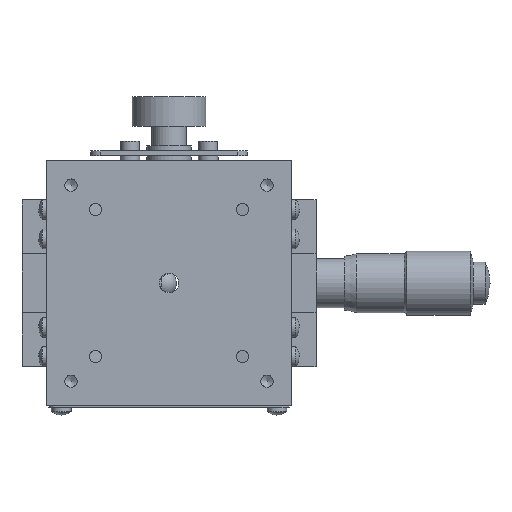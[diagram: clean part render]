
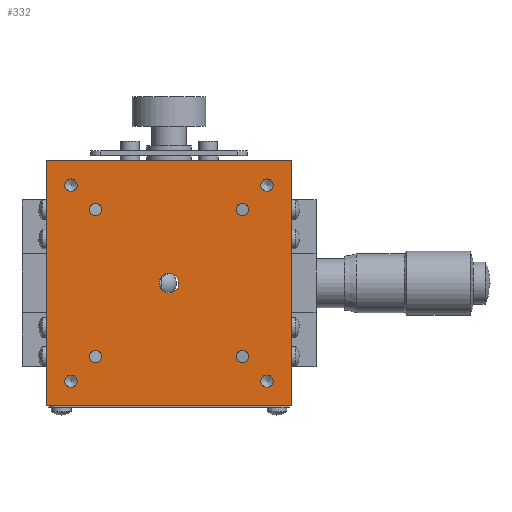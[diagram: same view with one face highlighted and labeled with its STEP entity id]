
A CAD part, top view. The second image highlights one B-rep face of the part: STEP entity #332.
In plain terms, the highlighted planar face has unit normal (0, 0, 1).
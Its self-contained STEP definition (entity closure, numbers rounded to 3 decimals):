
#332 = ADVANCED_FACE( '', ( #878, #879, #880, #881, #882, #883, #884, #885, #886, #887 ), #888, .T. );
#878 = FACE_BOUND( '', #1763, .T. );
#879 = FACE_BOUND( '', #1764, .T. );
#880 = FACE_BOUND( '', #1765, .T. );
#881 = FACE_BOUND( '', #1766, .T. );
#882 = FACE_BOUND( '', #1767, .T. );
#883 = FACE_BOUND( '', #1768, .T. );
#884 = FACE_BOUND( '', #1769, .T. );
#885 = FACE_BOUND( '', #1770, .T. );
#886 = FACE_BOUND( '', #1771, .T. );
#887 = FACE_OUTER_BOUND( '', #1772, .T. );
#888 = PLANE( '', #1773 );
#1763 = EDGE_LOOP( '', ( #2719 ) );
#1764 = EDGE_LOOP( '', ( #2720 ) );
#1765 = EDGE_LOOP( '', ( #2721 ) );
#1766 = EDGE_LOOP( '', ( #2722 ) );
#1767 = EDGE_LOOP( '', ( #2723 ) );
#1768 = EDGE_LOOP( '', ( #2724 ) );
#1769 = EDGE_LOOP( '', ( #2725 ) );
#1770 = EDGE_LOOP( '', ( #2726 ) );
#1771 = EDGE_LOOP( '', ( #2727 ) );
#1772 = EDGE_LOOP( '', ( #2728, #2729, #2730, #2731 ) );
#1773 = AXIS2_PLACEMENT_3D( '', #2732, #2733, #2734 );
#2719 = ORIENTED_EDGE( '', *, *, #4608, .T. );
#2720 = ORIENTED_EDGE( '', *, *, #4609, .T. );
#2721 = ORIENTED_EDGE( '', *, *, #4610, .T. );
#2722 = ORIENTED_EDGE( '', *, *, #4611, .T. );
#2723 = ORIENTED_EDGE( '', *, *, #4612, .T. );
#2724 = ORIENTED_EDGE( '', *, *, #4613, .T. );
#2725 = ORIENTED_EDGE( '', *, *, #4614, .T. );
#2726 = ORIENTED_EDGE( '', *, *, #4615, .T. );
#2727 = ORIENTED_EDGE( '', *, *, #4510, .T. );
#2728 = ORIENTED_EDGE( '', *, *, #4616, .F. );
#2729 = ORIENTED_EDGE( '', *, *, #4617, .F. );
#2730 = ORIENTED_EDGE( '', *, *, #4618, .F. );
#2731 = ORIENTED_EDGE( '', *, *, #4619, .F. );
#2732 = CARTESIAN_POINT( '', ( -25., 25., 18. ) );
#2733 = DIRECTION( '', ( 0., 0., 1. ) );
#2734 = DIRECTION( '', ( 0., 1., 0. ) );
#4510 = EDGE_CURVE( '', #5248, #5248, #5249, .T. );
#4608 = EDGE_CURVE( '', #5419, #5419, #5420, .T. );
#4609 = EDGE_CURVE( '', #5421, #5421, #5422, .T. );
#4610 = EDGE_CURVE( '', #5423, #5423, #5424, .T. );
#4611 = EDGE_CURVE( '', #5425, #5425, #5426, .T. );
#4612 = EDGE_CURVE( '', #5427, #5427, #5428, .T. );
#4613 = EDGE_CURVE( '', #5429, #5429, #5430, .T. );
#4614 = EDGE_CURVE( '', #5431, #5431, #5432, .T. );
#4615 = EDGE_CURVE( '', #5433, #5433, #5434, .T. );
#4616 = EDGE_CURVE( '', #5435, #5436, #5437, .T. );
#4617 = EDGE_CURVE( '', #5438, #5435, #5439, .T. );
#4618 = EDGE_CURVE( '', #5440, #5438, #5441, .T. );
#4619 = EDGE_CURVE( '', #5436, #5440, #5442, .T. );
#5248 = VERTEX_POINT( '', #6334 );
#5249 = CIRCLE( '', #6335, 1.25 );
#5419 = VERTEX_POINT( '', #6695 );
#5420 = CIRCLE( '', #6696, 2. );
#5421 = VERTEX_POINT( '', #6697 );
#5422 = CIRCLE( '', #6698, 1.25 );
#5423 = VERTEX_POINT( '', #6699 );
#5424 = CIRCLE( '', #6700, 1.25 );
#5425 = VERTEX_POINT( '', #6701 );
#5426 = CIRCLE( '', #6702, 1.25 );
#5427 = VERTEX_POINT( '', #6703 );
#5428 = CIRCLE( '', #6704, 1.25 );
#5429 = VERTEX_POINT( '', #6705 );
#5430 = CIRCLE( '', #6706, 1.25 );
#5431 = VERTEX_POINT( '', #6707 );
#5432 = CIRCLE( '', #6708, 1.25 );
#5433 = VERTEX_POINT( '', #6709 );
#5434 = CIRCLE( '', #6710, 1.25 );
#5435 = VERTEX_POINT( '', #6711 );
#5436 = VERTEX_POINT( '', #6712 );
#5437 = LINE( '', #6713, #6714 );
#5438 = VERTEX_POINT( '', #6715 );
#5439 = LINE( '', #6716, #6717 );
#5440 = VERTEX_POINT( '', #6718 );
#5441 = LINE( '', #6719, #6720 );
#5442 = LINE( '', #6721, #6722 );
#6334 = CARTESIAN_POINT( '', ( -45., 46.25, 18. ) );
#6335 = AXIS2_PLACEMENT_3D( '', #8271, #8272, #8273 );
#6695 = CARTESIAN_POINT( '', ( -25., 27., 18. ) );
#6696 = AXIS2_PLACEMENT_3D( '', #8397, #8398, #8399 );
#6697 = CARTESIAN_POINT( '', ( -10., 41.25, 18. ) );
#6698 = AXIS2_PLACEMENT_3D( '', #8400, #8401, #8402 );
#6699 = CARTESIAN_POINT( '', ( -10., 11.25, 18. ) );
#6700 = AXIS2_PLACEMENT_3D( '', #8403, #8404, #8405 );
#6701 = CARTESIAN_POINT( '', ( -40., 11.25, 18. ) );
#6702 = AXIS2_PLACEMENT_3D( '', #8406, #8407, #8408 );
#6703 = CARTESIAN_POINT( '', ( -40., 41.25, 18. ) );
#6704 = AXIS2_PLACEMENT_3D( '', #8409, #8410, #8411 );
#6705 = CARTESIAN_POINT( '', ( -5., 46.25, 18. ) );
#6706 = AXIS2_PLACEMENT_3D( '', #8412, #8413, #8414 );
#6707 = CARTESIAN_POINT( '', ( -5., 6.25, 18. ) );
#6708 = AXIS2_PLACEMENT_3D( '', #8415, #8416, #8417 );
#6709 = CARTESIAN_POINT( '', ( -45., 6.25, 18. ) );
#6710 = AXIS2_PLACEMENT_3D( '', #8418, #8419, #8420 );
#6711 = CARTESIAN_POINT( '', ( 0., 50., 18. ) );
#6712 = CARTESIAN_POINT( '', ( 0., 0., 18. ) );
#6713 = CARTESIAN_POINT( '', ( 0., 25., 18. ) );
#6714 = VECTOR( '', #8421, 1000. );
#6715 = CARTESIAN_POINT( '', ( -50., 50., 18. ) );
#6716 = CARTESIAN_POINT( '', ( -25., 50., 18. ) );
#6717 = VECTOR( '', #8422, 1000. );
#6718 = CARTESIAN_POINT( '', ( -50., 0., 18. ) );
#6719 = CARTESIAN_POINT( '', ( -50., 25., 18. ) );
#6720 = VECTOR( '', #8423, 1000. );
#6721 = CARTESIAN_POINT( '', ( -25., 0., 18. ) );
#6722 = VECTOR( '', #8424, 1000. );
#8271 = CARTESIAN_POINT( '', ( -45., 45., 18. ) );
#8272 = DIRECTION( '', ( 0., 0., -1. ) );
#8273 = DIRECTION( '', ( 0., 1., 0. ) );
#8397 = CARTESIAN_POINT( '', ( -25., 25., 18. ) );
#8398 = DIRECTION( '', ( 0., 0., -1. ) );
#8399 = DIRECTION( '', ( 0., 1., 0. ) );
#8400 = CARTESIAN_POINT( '', ( -10., 40., 18. ) );
#8401 = DIRECTION( '', ( 0., 0., -1. ) );
#8402 = DIRECTION( '', ( 0., 1., 0. ) );
#8403 = CARTESIAN_POINT( '', ( -10., 10., 18. ) );
#8404 = DIRECTION( '', ( 0., 0., -1. ) );
#8405 = DIRECTION( '', ( 0., 1., 0. ) );
#8406 = CARTESIAN_POINT( '', ( -40., 10., 18. ) );
#8407 = DIRECTION( '', ( 0., 0., -1. ) );
#8408 = DIRECTION( '', ( 0., 1., 0. ) );
#8409 = CARTESIAN_POINT( '', ( -40., 40., 18. ) );
#8410 = DIRECTION( '', ( 0., 0., -1. ) );
#8411 = DIRECTION( '', ( 0., 1., 0. ) );
#8412 = CARTESIAN_POINT( '', ( -5., 45., 18. ) );
#8413 = DIRECTION( '', ( 0., 0., -1. ) );
#8414 = DIRECTION( '', ( 0., 1., 0. ) );
#8415 = CARTESIAN_POINT( '', ( -5., 5., 18. ) );
#8416 = DIRECTION( '', ( 0., 0., -1. ) );
#8417 = DIRECTION( '', ( 0., 1., 0. ) );
#8418 = CARTESIAN_POINT( '', ( -45., 5., 18. ) );
#8419 = DIRECTION( '', ( 0., 0., -1. ) );
#8420 = DIRECTION( '', ( 0., 1., 0. ) );
#8421 = DIRECTION( '', ( 0., -1., 0. ) );
#8422 = DIRECTION( '', ( 1., 0., 0. ) );
#8423 = DIRECTION( '', ( 0., 1., 0. ) );
#8424 = DIRECTION( '', ( -1., 0., 0. ) );
